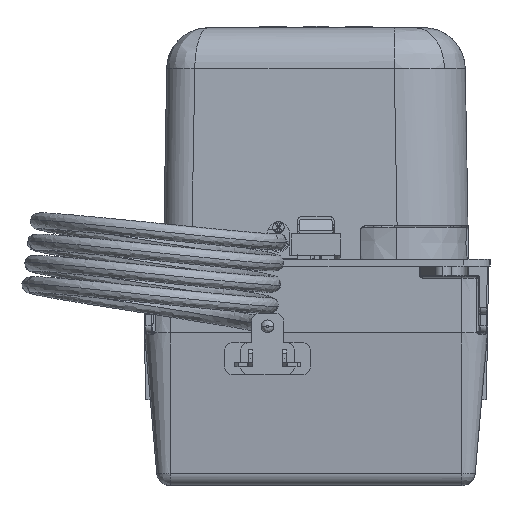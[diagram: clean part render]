
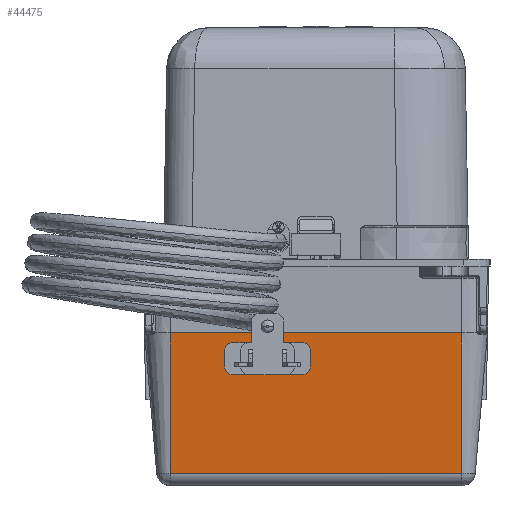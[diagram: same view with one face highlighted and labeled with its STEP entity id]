
A CAD part, left-side view. The second image highlights one B-rep face of the part: STEP entity #44475.
In plain terms, the highlighted planar face has unit normal (-0.996, 0, -0.087).
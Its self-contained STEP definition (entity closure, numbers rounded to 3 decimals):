
#5292 = LINE ( 'NONE', #23249, #50104 ) ;
#7949 = CARTESIAN_POINT ( 'NONE',  ( -121.361, 59.615, 16. ) ) ;
#12279 = PLANE ( 'NONE',  #38473 ) ;
#15353 = ORIENTED_EDGE ( 'NONE', *, *, #69469, .T. ) ;
#16284 = CARTESIAN_POINT ( 'NONE',  ( -121.361, -49.385, 16. ) ) ;
#20290 = VERTEX_POINT ( 'NONE', #16284 ) ;
#21723 = VERTEX_POINT ( 'NONE', #48319 ) ;
#22273 = ORIENTED_EDGE ( 'NONE', *, *, #48307, .F. ) ;
#23249 = CARTESIAN_POINT ( 'NONE',  ( -116.773, -49.385, -36.436 ) ) ;
#23890 = VECTOR ( 'NONE', #32434, 1000. ) ;
#25106 = DIRECTION ( 'NONE',  ( -0.996, 0., -0.087 ) ) ;
#30753 = EDGE_CURVE ( 'NONE', #42870, #20290, #42580, .T. ) ;
#32434 = DIRECTION ( 'NONE',  ( 0., -1., 0. ) ) ;
#34138 = DIRECTION ( 'NONE',  ( 0., -1., 0. ) ) ;
#38473 = AXIS2_PLACEMENT_3D ( 'NONE', #55130, #25106, #71563 ) ;
#39294 = VERTEX_POINT ( 'NONE', #66277 ) ;
#42580 = LINE ( 'NONE', #7949, #23890 ) ;
#42870 = VERTEX_POINT ( 'NONE', #56117 ) ;
#43183 = DIRECTION ( 'NONE',  ( -0.087, 0., 0.996 ) ) ;
#43843 = ORIENTED_EDGE ( 'NONE', *, *, #30753, .F. ) ;
#44472 = ORIENTED_EDGE ( 'NONE', *, *, #76256, .T. ) ;
#44475 = ADVANCED_FACE ( 'NONE', ( #49297 ), #12279, .T. ) ;
#45423 = EDGE_LOOP ( 'NONE', ( #22273, #15353, #44472, #43843 ) ) ;
#48307 = EDGE_CURVE ( 'NONE', #39294, #42870, #48681, .T. ) ;
#48319 = CARTESIAN_POINT ( 'NONE',  ( -116.773, -49.385, -36.436 ) ) ;
#48681 = LINE ( 'NONE', #54552, #63630 ) ;
#49297 = FACE_OUTER_BOUND ( 'NONE', #45423, .T. ) ;
#50104 = VECTOR ( 'NONE', #34138, 1000. ) ;
#50789 = LINE ( 'NONE', #56238, #68065 ) ;
#54552 = CARTESIAN_POINT ( 'NONE',  ( -121.361, 59.615, 16. ) ) ;
#55130 = CARTESIAN_POINT ( 'NONE',  ( -121.361, -49.385, 16. ) ) ;
#56117 = CARTESIAN_POINT ( 'NONE',  ( -121.361, 59.615, 16. ) ) ;
#56238 = CARTESIAN_POINT ( 'NONE',  ( -121.361, -49.385, 16. ) ) ;
#62078 = DIRECTION ( 'NONE',  ( -0.087, 0., 0.996 ) ) ;
#63630 = VECTOR ( 'NONE', #43183, 1000. ) ;
#66277 = CARTESIAN_POINT ( 'NONE',  ( -116.773, 59.615, -36.436 ) ) ;
#68065 = VECTOR ( 'NONE', #62078, 1000. ) ;
#69469 = EDGE_CURVE ( 'NONE', #39294, #21723, #5292, .T. ) ;
#71563 = DIRECTION ( 'NONE',  ( 0.087, 0., -0.996 ) ) ;
#76256 = EDGE_CURVE ( 'NONE', #21723, #20290, #50789, .T. ) ;
